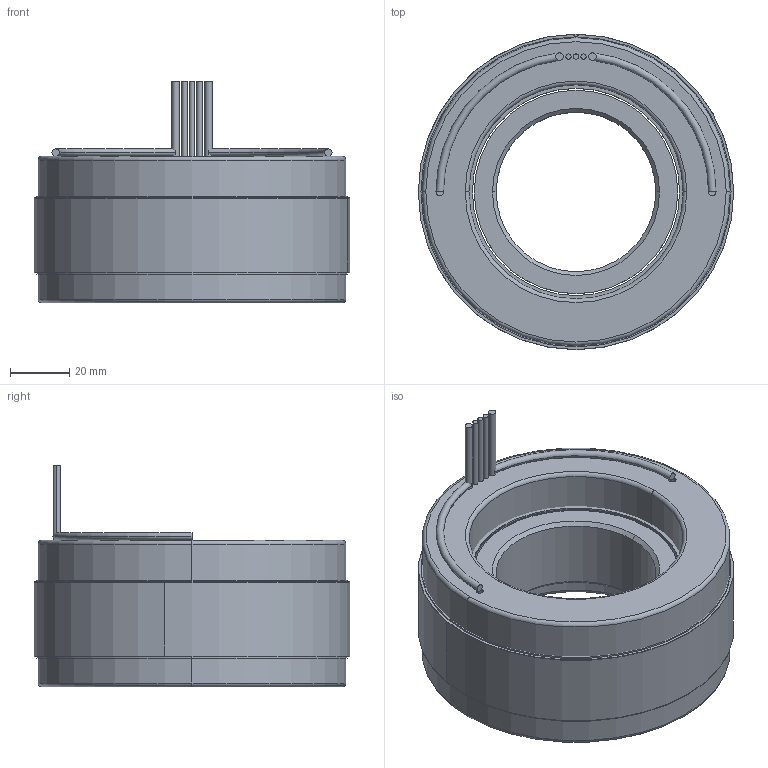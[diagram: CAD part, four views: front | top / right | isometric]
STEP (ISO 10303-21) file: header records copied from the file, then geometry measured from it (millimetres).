
FILE_DESCRIPTION (( 'STEP AP214' ), '1' );
FILE_NAME ('6100329-01.STEP', '2019-10-23T21:32:06', ( '' ), ( '' ), 'SwSTEP 2.0', 'SolidWorks 2016', '' );
FILE_SCHEMA (( 'AUTOMOTIVE_DESIGN' ));
Length unit declared in the file: millimetre
Products named in the file (10): 4450153-XX_4450153-01; 4150160-XX_4150160-01; COMP4500536-XX (COIL)_COMP4500536-01 (COIL); 4500536-XX_4500536-01; 6100329-01; 4600460-00; 4250350-XX_4250350-01; 4400065-00
Assembly tree (10 placements, depth 4):
  6100329-01
    4500536-XX_4500536-01
      4450153-XX_4450153-01
        4450153-XX_4450153-01
        4400065-00
        4400065-00
        4600460-00  x2
      COMP4500536-XX (COIL)_COMP4500536-01 (COIL)
    4250350-XX_4250350-01
      4150160-XX_4150160-01
Bounding box: 106.68 x 106.68 x 74.93 mm (x, y, z)
Volume: 388656.6 mm3; surface area: 114510 mm2
Topology: 14 solids, 14 shells, 94 faces, 180 edges, 116 vertices
Faces by surface type: cylinder 48, plane 30, torus 12, cone 4
Entity records: 2735 total; most frequent: DIRECTION 496, CARTESIAN_POINT 380, ORIENTED_EDGE 336, AXIS2_PLACEMENT_3D 224, EDGE_CURVE 168, CIRCLE 120, VERTEX_POINT 108, EDGE_LOOP 102
